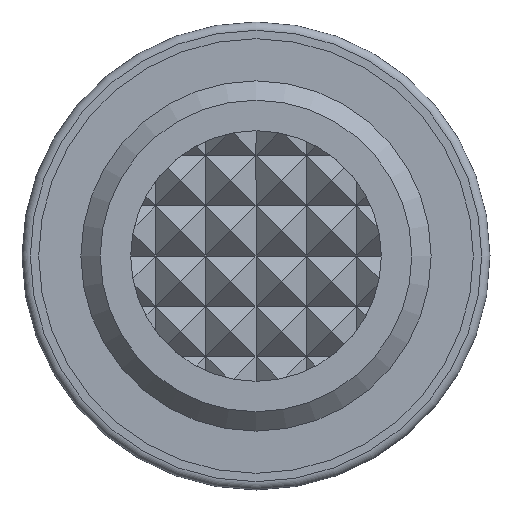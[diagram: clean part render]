
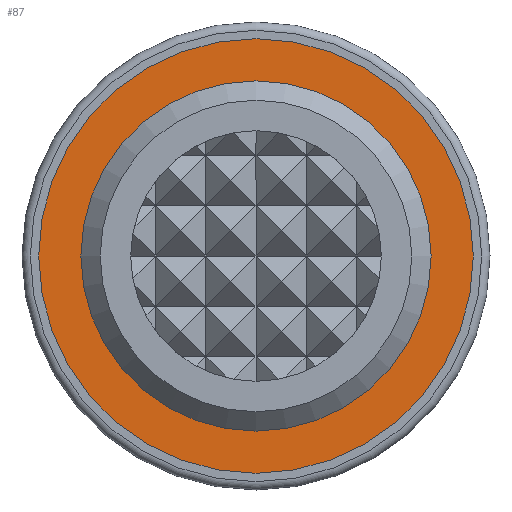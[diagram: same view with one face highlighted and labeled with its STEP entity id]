
A CAD part, left-side view. The second image highlights one B-rep face of the part: STEP entity #87.
In plain terms, the highlighted planar face has unit normal (-1, 0, 0).
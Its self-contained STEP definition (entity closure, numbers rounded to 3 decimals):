
#87 = ADVANCED_FACE( '', ( #227, #228 ), #229, .F. );
#227 = FACE_OUTER_BOUND( '', #480, .T. );
#228 = FACE_BOUND( '', #481, .T. );
#229 = PLANE( '', #482 );
#480 = EDGE_LOOP( '', ( #775 ) );
#481 = EDGE_LOOP( '', ( #776 ) );
#482 = AXIS2_PLACEMENT_3D( '', #777, #778, #779 );
#775 = ORIENTED_EDGE( '', *, *, #1523, .F. );
#776 = ORIENTED_EDGE( '', *, *, #1521, .T. );
#777 = CARTESIAN_POINT( '', ( -1., 10.478, 0. ) );
#778 = DIRECTION( '', ( 1., 0., 0. ) );
#779 = DIRECTION( '', ( 0., 0., -1. ) );
#1521 = EDGE_CURVE( '', #1755, #1755, #1756, .T. );
#1523 = EDGE_CURVE( '', #1759, #1759, #1760, .T. );
#1755 = VERTEX_POINT( '', #2088 );
#1756 = CIRCLE( '', #2089, 10.478 );
#1759 = VERTEX_POINT( '', #2092 );
#1760 = CIRCLE( '', #2093, 13. );
#2088 = CARTESIAN_POINT( '', ( -1., 0., -10.478 ) );
#2089 = AXIS2_PLACEMENT_3D( '', #2555, #2556, #2557 );
#2092 = CARTESIAN_POINT( '', ( -1., 0., -13. ) );
#2093 = AXIS2_PLACEMENT_3D( '', #2561, #2562, #2563 );
#2555 = CARTESIAN_POINT( '', ( -1., 0., 0. ) );
#2556 = DIRECTION( '', ( 1., 0., 0. ) );
#2557 = DIRECTION( '', ( 0., 0., -1. ) );
#2561 = CARTESIAN_POINT( '', ( -1., 0., 0. ) );
#2562 = DIRECTION( '', ( 1., 0., 0. ) );
#2563 = DIRECTION( '', ( 0., 0., -1. ) );
